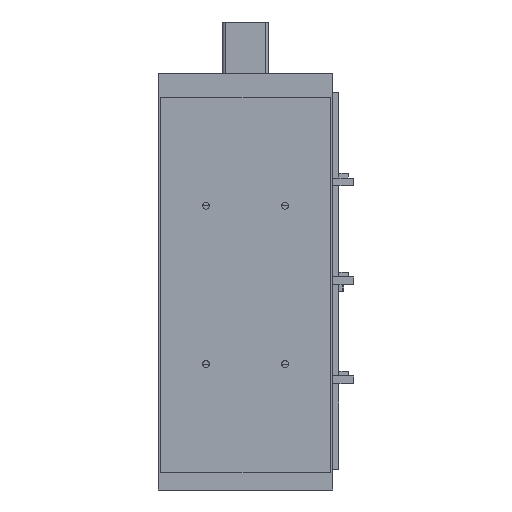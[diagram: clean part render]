
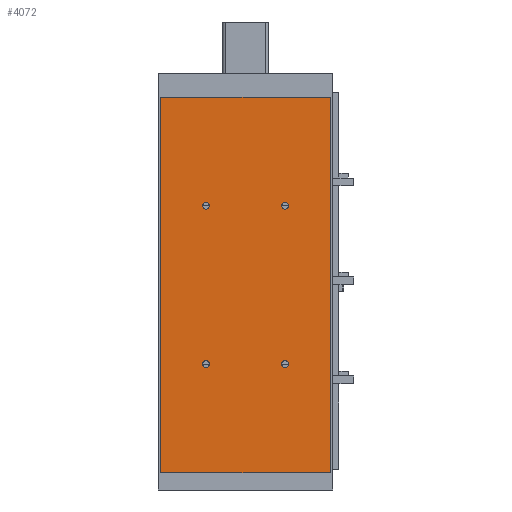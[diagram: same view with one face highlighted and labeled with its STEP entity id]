
A CAD part, front view. The second image highlights one B-rep face of the part: STEP entity #4072.
In plain terms, the highlighted planar face has unit normal (0, -1, 0).
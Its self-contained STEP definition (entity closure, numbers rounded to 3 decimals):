
#3162=CARTESIAN_POINT('',(-107.,0.0,474.));
#3163=VERTEX_POINT('',#3162);
#3170=CARTESIAN_POINT('',(107.,0.0,474.));
#3171=VERTEX_POINT('',#3170);
#3172=CARTESIAN_POINT('',(107.,0.0,474.));
#3173=DIRECTION('',(-1.0,0.0,0.0));
#3174=VECTOR('',#3173,214.);
#3175=LINE('',#3172,#3174);
#3176=EDGE_CURVE('',#3171,#3163,#3175,.T.);
#3506=CARTESIAN_POINT('',(107.,0.0,0.0));
#3507=VERTEX_POINT('',#3506);
#3514=CARTESIAN_POINT('',(-107.,0.0,0.0));
#3515=VERTEX_POINT('',#3514);
#3516=CARTESIAN_POINT('',(-107.,0.0,0.0));
#3517=DIRECTION('',(1.0,0.0,0.0));
#3518=VECTOR('',#3517,214.);
#3519=LINE('',#3516,#3518);
#3520=EDGE_CURVE('',#3515,#3507,#3519,.T.);
#3626=CARTESIAN_POINT('',(45.751,0.0,137.));
#3627=VERTEX_POINT('',#3626);
#3628=CARTESIAN_POINT('',(50.001,0.0,137.));
#3629=DIRECTION('',(0.0,1.0,0.0));
#3630=DIRECTION('',(1.0,0.0,0.0));
#3631=AXIS2_PLACEMENT_3D('',#3628,#3629,#3630);
#3632=CIRCLE('',#3631,4.25);
#3633=EDGE_CURVE('',#3627,#3627,#3632,.T.);
#3667=CARTESIAN_POINT('',(-54.249,0.0,137.));
#3668=VERTEX_POINT('',#3667);
#3669=CARTESIAN_POINT('',(-49.999,0.0,137.));
#3670=DIRECTION('',(0.0,1.0,0.0));
#3671=DIRECTION('',(1.0,0.0,0.0));
#3672=AXIS2_PLACEMENT_3D('',#3669,#3670,#3671);
#3673=CIRCLE('',#3672,4.25);
#3674=EDGE_CURVE('',#3668,#3668,#3673,.T.);
#3846=CARTESIAN_POINT('',(45.751,0.0,337.0));
#3847=VERTEX_POINT('',#3846);
#3848=CARTESIAN_POINT('',(50.001,0.0,337.0));
#3849=DIRECTION('',(0.0,1.0,0.0));
#3850=DIRECTION('',(1.0,0.0,0.0));
#3851=AXIS2_PLACEMENT_3D('',#3848,#3849,#3850);
#3852=CIRCLE('',#3851,4.25);
#3853=EDGE_CURVE('',#3847,#3847,#3852,.T.);
#3956=CARTESIAN_POINT('',(-54.249,0.0,337.0));
#3957=VERTEX_POINT('',#3956);
#3958=CARTESIAN_POINT('',(-49.999,0.0,337.0));
#3959=DIRECTION('',(0.0,1.0,0.0));
#3960=DIRECTION('',(1.0,0.0,0.0));
#3961=AXIS2_PLACEMENT_3D('',#3958,#3959,#3960);
#3962=CIRCLE('',#3961,4.25);
#3963=EDGE_CURVE('',#3957,#3957,#3962,.T.);
#3983=CARTESIAN_POINT('',(107.,0.0,0.0));
#3984=DIRECTION('',(0.0,0.0,1.0));
#3985=VECTOR('',#3984,474.);
#3986=LINE('',#3983,#3985);
#3987=EDGE_CURVE('',#3507,#3171,#3986,.T.);
#4005=CARTESIAN_POINT('',(-107.,0.0,0.0));
#4006=DIRECTION('',(0.0,0.0,1.0));
#4007=VECTOR('',#4006,474.);
#4008=LINE('',#4005,#4007);
#4009=EDGE_CURVE('',#3515,#3163,#4008,.T.);
#4049=CARTESIAN_POINT('',(107.,0.0,0.0));
#4050=DIRECTION('',(0.0,-1.0,0.0));
#4051=DIRECTION('',(0.0,0.0,-1.0));
#4052=AXIS2_PLACEMENT_3D('',#4049,#4050,#4051);
#4053=PLANE('',#4052);
#4054=ORIENTED_EDGE('',*,*,#3176,.T.);
#4055=ORIENTED_EDGE('',*,*,#4009,.F.);
#4056=ORIENTED_EDGE('',*,*,#3520,.T.);
#4057=ORIENTED_EDGE('',*,*,#3987,.T.);
#4058=EDGE_LOOP('',(#4054,#4055,#4056,#4057));
#4059=FACE_OUTER_BOUND('',#4058,.T.);
#4060=ORIENTED_EDGE('',*,*,#3633,.T.);
#4061=EDGE_LOOP('',(#4060));
#4062=FACE_BOUND('',#4061,.T.);
#4063=ORIENTED_EDGE('',*,*,#3674,.T.);
#4064=EDGE_LOOP('',(#4063));
#4065=FACE_BOUND('',#4064,.T.);
#4066=ORIENTED_EDGE('',*,*,#3853,.T.);
#4067=EDGE_LOOP('',(#4066));
#4068=FACE_BOUND('',#4067,.T.);
#4069=ORIENTED_EDGE('',*,*,#3963,.T.);
#4070=EDGE_LOOP('',(#4069));
#4071=FACE_BOUND('',#4070,.T.);
#4072=ADVANCED_FACE('',(#4059,#4062,#4065,#4068,#4071),#4053,.T.);
